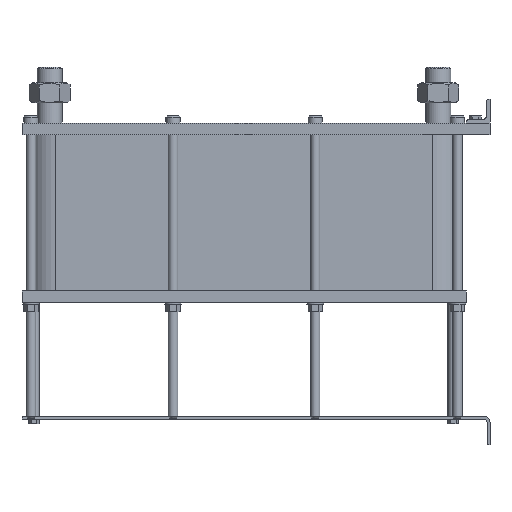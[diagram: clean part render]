
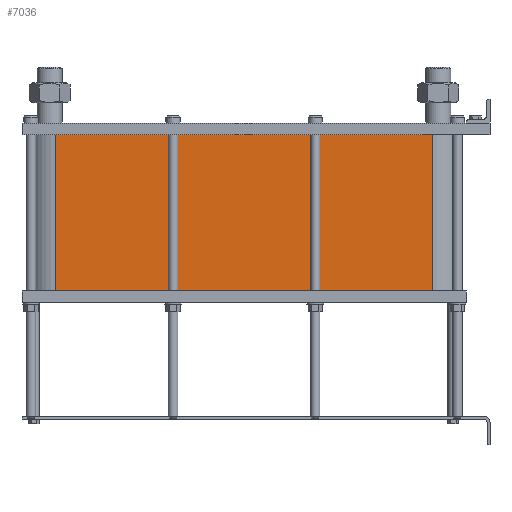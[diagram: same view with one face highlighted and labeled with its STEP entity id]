
A CAD part, left-side view. The second image highlights one B-rep face of the part: STEP entity #7036.
In plain terms, the highlighted planar face has unit normal (-1, 0, 0).
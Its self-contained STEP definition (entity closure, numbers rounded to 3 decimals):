
#999=LINE('',#15640,#1553);
#1031=LINE('',#15723,#1585);
#1032=LINE('',#15726,#1586);
#1033=LINE('',#15727,#1587);
#1553=VECTOR('',#9658,10.);
#1585=VECTOR('',#9736,10.);
#1586=VECTOR('',#9741,10.);
#1587=VECTOR('',#9742,10.);
#2117=FACE_OUTER_BOUND('',#2671,.T.);
#2671=EDGE_LOOP('',(#6246,#6247,#6248,#6249));
#3527=VERTEX_POINT('',#15634);
#3529=VERTEX_POINT('',#15638);
#3556=VERTEX_POINT('',#15720);
#3557=VERTEX_POINT('',#15722);
#4425=EDGE_CURVE('',#3529,#3527,#999,.T.);
#4466=EDGE_CURVE('',#3557,#3556,#1031,.T.);
#4468=EDGE_CURVE('',#3527,#3556,#1032,.T.);
#4469=EDGE_CURVE('',#3557,#3529,#1033,.T.);
#6246=ORIENTED_EDGE('',*,*,#4468,.F.);
#6247=ORIENTED_EDGE('',*,*,#4425,.F.);
#6248=ORIENTED_EDGE('',*,*,#4469,.F.);
#6249=ORIENTED_EDGE('',*,*,#4466,.T.);
#6608=PLANE('',#7812);
#7036=ADVANCED_FACE('',(#2117),#6608,.T.);
#7812=AXIS2_PLACEMENT_3D('',#15725,#9739,#9740);
#9658=DIRECTION('',(0.,0.,-1.));
#9736=DIRECTION('',(0.,0.,-1.));
#9739=DIRECTION('center_axis',(-1.,0.,0.));
#9740=DIRECTION('ref_axis',(0.,1.,0.));
#9741=DIRECTION('',(0.,1.,0.));
#9742=DIRECTION('',(0.,-1.,0.));
#15634=CARTESIAN_POINT('',(-72.,97.5,-263.5));
#15638=CARTESIAN_POINT('',(-72.,97.5,0.));
#15640=CARTESIAN_POINT('',(-72.,97.5,0.));
#15720=CARTESIAN_POINT('',(-72.,733.5,-263.5));
#15722=CARTESIAN_POINT('',(-72.,733.5,0.));
#15723=CARTESIAN_POINT('',(-72.,733.5,0.));
#15725=CARTESIAN_POINT('Origin',(-72.,97.5,0.));
#15726=CARTESIAN_POINT('',(-72.,256.5,-263.5));
#15727=CARTESIAN_POINT('',(-72.,733.5,0.));
